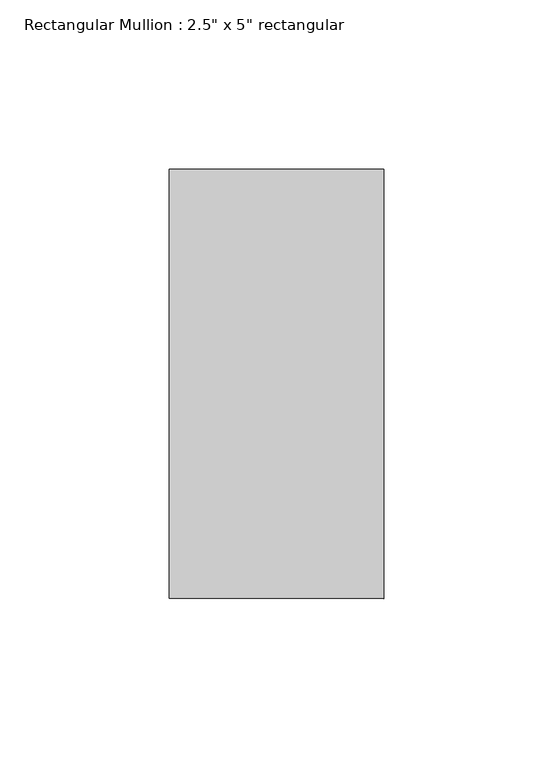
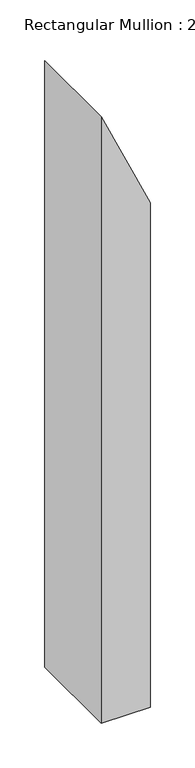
"""IFC4 building model written with IfcOpenShell, lengths in millimetres: member geometry."""

import ifcopenshell
import ifcopenshell.guid

model = None  # the IFC model being written
_history = None  # IfcOwnerHistory: only IFC2X3 demands one
_inside = {}  # id of a spatial element -> (the spatial element, [elements in it])
_under = {}  # id of a project, library or spatial element -> (it, [spatial elements below it])
_declared = {}  # id of a project -> (the project, [libraries it declares])
_typed = {}  # id of a type object -> (the type object, [elements of that type])
_made_of = {}  # id of a material, layer set ... -> (it, [elements and type objects made of it])


def new_model(schema):
    """Start an empty IFC model of exactly this schema.

    Asked for "IFC4X3", IfcOpenShell would pick the latest addendum, in which some entities
    have other attributes; the version numbers below select the first issue.
    IFC2X3 requires an IfcOwnerHistory on every rooted entity: one is made here for all.
    """
    global model, _history
    if schema == "IFC4X3":
        model = ifcopenshell.file(schema_version=(4, 3, 0, 0))
    else:
        model = ifcopenshell.file(schema=schema)
    _inside.clear()
    _under.clear()
    _declared.clear()
    _typed.clear()
    _made_of.clear()
    _history = None
    if model.schema == "IFC2X3":
        org = make("IfcOrganization", Name="unknown")
        user = make(
            "IfcPersonAndOrganization",
            ThePerson=make("IfcPerson", FamilyName="unknown"),
            TheOrganization=org,
        )
        app = make(
            "IfcApplication",
            ApplicationDeveloper=org,
            Version="unknown",
            ApplicationFullName="unknown",
            ApplicationIdentifier="unknown",
        )
        _history = make(
            "IfcOwnerHistory",
            OwningUser=user,
            OwningApplication=app,
            ChangeAction="ADDED",
            CreationDate=0,
        )
    return model


def make(cls, **values):
    """One entity of the class cls with the attributes given. An attribute that is None is left unset."""
    return model.create_entity(
        cls, **{name: value for name, value in values.items() if value is not None}
    )


def rooted(cls, **values):
    """An entity with a GlobalId (a new one), such as an element, a storey or a relation."""
    return make(cls, GlobalId=ifcopenshell.guid.new(), OwnerHistory=_history, **values)


def si_unit(unit_type, name, prefix=None):
    """IfcSIUnit, for example si_unit("LENGTHUNIT", "METRE", prefix="MILLI")."""
    return make("IfcSIUnit", UnitType=unit_type, Prefix=prefix, Name=name)


def assignment(units):
    """IfcUnitAssignment: the units of a project."""
    return None if units is None else make("IfcUnitAssignment", Units=units)


def point(xyz):
    """IfcCartesianPoint."""
    return None if xyz is None else make("IfcCartesianPoint", Coordinates=xyz)


def direction(xyz):
    """IfcDirection."""
    return None if xyz is None else make("IfcDirection", DirectionRatios=xyz)


def frame(location, z_axis=None, x_axis=None):
    """IfcAxis2Placement3D, a coordinate frame: its origin and axes. An axis left out is left unset."""
    return make(
        "IfcAxis2Placement3D",
        Location=point(location),
        Axis=direction(z_axis),
        RefDirection=direction(x_axis),
    )


def origin():
    """The frame at (0, 0, 0) with its axes left unset."""
    return frame((0.0, 0.0, 0.0))


def place(relative_to, where):
    """IfcLocalPlacement: puts the frame where relative to a parent placement (None: the world)."""
    return make(
        "IfcLocalPlacement", PlacementRelTo=relative_to, RelativePlacement=where
    )


def context(
    kind, dimensions, precision=None, world=None, true_north=None, identifier=None
):
    """IfcGeometricRepresentationContext, for example the 3D "Model" context."""
    return make(
        "IfcGeometricRepresentationContext",
        ContextIdentifier=identifier,
        ContextType=kind,
        CoordinateSpaceDimension=dimensions,
        Precision=precision,
        WorldCoordinateSystem=world,
        TrueNorth=true_north,
    )


def project(units=None, contexts=None):
    """IfcProject with its units and contexts."""
    return rooted(
        "IfcProject",
        Name="project",
        RepresentationContexts=contexts,
        UnitsInContext=assignment(units),
    )


def spatial(cls, under=None, at=None, **own):
    """A site, building, storey or space (cls), placed at a placement, below another one or the project."""
    s = rooted(cls, ObjectPlacement=at, **own)
    if under is not None:
        _under.setdefault(under.id(), (under, []))[1].append(s)
    return s


def polyline(points):
    """IfcPolyline through the points."""
    return make("IfcPolyline", Points=[point(p) for p in points])


def outline(outer, holes=None, kind="AREA"):
    """IfcArbitraryClosedProfileDef: a profile drawn as a closed curve; with holes, ...WithVoids."""
    if holes is None:
        return make("IfcArbitraryClosedProfileDef", ProfileType=kind, OuterCurve=outer)
    return make(
        "IfcArbitraryProfileDefWithVoids",
        ProfileType=kind,
        OuterCurve=outer,
        InnerCurves=holes,
    )


def extrude(swept, where, along, depth):
    """IfcExtrudedAreaSolid: the profile swept, set in the frame where, extruded along a direction by depth."""
    return make(
        "IfcExtrudedAreaSolid",
        SweptArea=swept,
        Position=where,
        ExtrudedDirection=direction(along),
        Depth=depth,
    )


def shape(context_of_items, identifier, shape_type, items):
    """IfcShapeRepresentation: the items that make up one representation, for example the "Body"."""
    return make(
        "IfcShapeRepresentation",
        ContextOfItems=context_of_items,
        RepresentationIdentifier=identifier,
        RepresentationType=shape_type,
        Items=items,
    )


def source(mapping_origin, context_of_items, identifier, shape_type, items):
    """IfcRepresentationMap: a shape defined once, which mapped items show again and again."""
    return make(
        "IfcRepresentationMap",
        MappingOrigin=mapping_origin,
        MappedRepresentation=shape(context_of_items, identifier, shape_type, items),
    )


def transform(
    local_origin,
    x_axis=None,
    y_axis=None,
    z_axis=None,
    scale=None,
    scale2=None,
    scale3=None,
    uniform=True,
):
    """IfcCartesianTransformationOperator3D, or its non-uniform kind. x_axis, y_axis, z_axis: its Axis1, 2, 3."""
    if uniform:
        return make(
            "IfcCartesianTransformationOperator3D",
            Axis1=direction(x_axis),
            Axis2=direction(y_axis),
            LocalOrigin=point(local_origin),
            Scale=scale,
            Axis3=direction(z_axis),
        )
    return make(
        "IfcCartesianTransformationOperator3DnonUniform",
        Axis1=direction(x_axis),
        Axis2=direction(y_axis),
        LocalOrigin=point(local_origin),
        Scale=scale,
        Axis3=direction(z_axis),
        Scale2=scale2,
        Scale3=scale3,
    )


def mapped(mapping_source, mapping_target):
    """IfcMappedItem: shows the shape of a source again, moved by a transform."""
    return make(
        "IfcMappedItem", MappingSource=mapping_source, MappingTarget=mapping_target
    )


def made_of(thing, what):
    """Note that an element or type object is made of a material, layer set ...; save() writes the relation."""
    if what is not None:
        _made_of.setdefault(what.id(), (what, []))[1].append(thing)
    return thing


def element(
    cls,
    number,
    at=None,
    inside=None,
    cuts=None,
    type_object=None,
    material=None,
    context=None,
    identifier="Body",
    shape_type=None,
    held_by="IfcProductDefinitionShape",
    body=None,
    shapes=None,
    **own,
):
    """One element of the class cls, such as IfcWall. Its Tag is "e" and its number.

    at: its placement. inside: the storey or other place that contains it. cuts: it is an
    opening in that element (IfcRelVoidsElement). A single representation is given by context,
    identifier, shape_type and body (its items); several are given by shapes. held_by: the class
    of the entity that holds the representations. save() writes the other relations.
    """
    e = rooted(cls, Tag="e%d" % number, ObjectPlacement=at, **own)
    if body is not None:
        shapes = [shape(context, identifier, shape_type, body)]
    if shapes is not None:
        e.Representation = make(held_by, Representations=shapes)
    if inside is not None:
        _inside.setdefault(inside.id(), (inside, []))[1].append(e)
    if cuts is not None:
        rooted(
            "IfcRelVoidsElement", RelatingBuildingElement=cuts, RelatedOpeningElement=e
        )
    if type_object is not None:
        _typed.setdefault(type_object.id(), (type_object, []))[1].append(e)
    return made_of(e, material)


def aggregate(whole, parts):
    """IfcRelAggregates: a whole, such as a stair, and the parts it consists of."""
    return rooted("IfcRelAggregates", RelatingObject=whole, RelatedObjects=parts)


def save(model, path):
    """Write the relations noted so far, then the file.

    IfcRelAggregates (storeys below a building ...), IfcRelContainedInSpatialStructure (elements
    in a storey), IfcRelDefinesByType, IfcRelAssociatesMaterial and IfcRelDeclares: one each for
    every whole, place, type object, material and project.
    """
    for whole, parts in _under.values():
        aggregate(whole, parts)
    for where, things in _inside.values():
        rooted(
            "IfcRelContainedInSpatialStructure",
            RelatedElements=things,
            RelatingStructure=where,
        )
    for kind, things in _typed.values():
        rooted("IfcRelDefinesByType", RelatedObjects=things, RelatingType=kind)
    for what, things in _made_of.values():
        rooted("IfcRelAssociatesMaterial", RelatedObjects=things, RelatingMaterial=what)
    for by, libraries in _declared.values():
        rooted("IfcRelDeclares", RelatingContext=by, RelatedDefinitions=libraries)
    model.write(path)


def member_68a4e864(model_context):
    return source(origin(), model_context, "Body", "SweptSolid", [
        extrude(outline(polyline([(-223.2256233, 31.75), (-83.5816813, -31.75), (-914.7148196, -31.75), (-914.7148196, 31.75), (-223.2256233, 31.75)])), frame((0.0, -63.5, 0.0), z_axis=(0.0, 1.0, 0.0), x_axis=(0.0, 0.0, 1.0)), (0.0, 0.0, 1.0), 127.0),
    ])


if __name__ == "__main__":
    model = new_model("IFC4")
    model_context = context("Model", 3, world=origin())
    ifc_project = project(units=[si_unit("LENGTHUNIT", "METRE", prefix="MILLI")], contexts=[model_context])
    site = spatial("IfcSite", under=ifc_project)
    building = spatial("IfcBuilding", under=site)
    placement = place(None, origin())
    member_shape = member_68a4e864(model_context)
    element("IfcMember", 1, ObjectType="Rectangular Mullion : 2.5\" x 5\" rectangular", at=placement, inside=building, context=model_context, shape_type="MappedRepresentation", body=[
        mapped(member_shape, transform((0.0, 0.0, 0.0), x_axis=(1.0, 0.0, 0.0), y_axis=(0.0, 1.0, 0.0), z_axis=(0.0, 0.0, 1.0))),
    ])
    save(model, "model.ifc")
